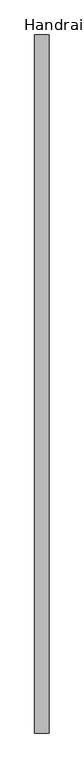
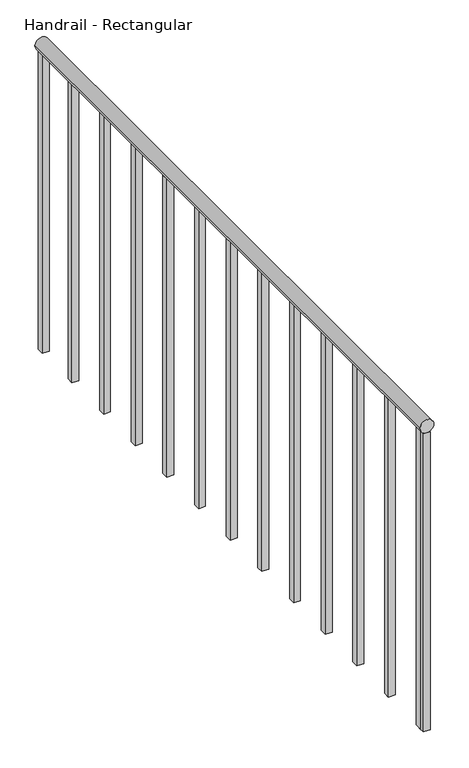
"""IFC4 building model written with IfcOpenShell, lengths in millimetres: railing geometry, Handrail - Rectangular."""

import ifcopenshell
import ifcopenshell.guid

model = None  # the IFC model being written
_history = None  # IfcOwnerHistory: only IFC2X3 demands one
_inside = {}  # id of a spatial element -> (the spatial element, [elements in it])
_under = {}  # id of a project, library or spatial element -> (it, [spatial elements below it])
_declared = {}  # id of a project -> (the project, [libraries it declares])
_typed = {}  # id of a type object -> (the type object, [elements of that type])
_made_of = {}  # id of a material, layer set ... -> (it, [elements and type objects made of it])


def new_model(schema):
    """Start an empty IFC model of exactly this schema.

    Asked for "IFC4X3", IfcOpenShell would pick the latest addendum, in which some entities
    have other attributes; the version numbers below select the first issue.
    IFC2X3 requires an IfcOwnerHistory on every rooted entity: one is made here for all.
    """
    global model, _history
    if schema == "IFC4X3":
        model = ifcopenshell.file(schema_version=(4, 3, 0, 0))
    else:
        model = ifcopenshell.file(schema=schema)
    _inside.clear()
    _under.clear()
    _declared.clear()
    _typed.clear()
    _made_of.clear()
    _history = None
    if model.schema == "IFC2X3":
        org = make("IfcOrganization", Name="unknown")
        user = make(
            "IfcPersonAndOrganization",
            ThePerson=make("IfcPerson", FamilyName="unknown"),
            TheOrganization=org,
        )
        app = make(
            "IfcApplication",
            ApplicationDeveloper=org,
            Version="unknown",
            ApplicationFullName="unknown",
            ApplicationIdentifier="unknown",
        )
        _history = make(
            "IfcOwnerHistory",
            OwningUser=user,
            OwningApplication=app,
            ChangeAction="ADDED",
            CreationDate=0,
        )
    return model


def make(cls, **values):
    """One entity of the class cls with the attributes given. An attribute that is None is left unset."""
    return model.create_entity(
        cls, **{name: value for name, value in values.items() if value is not None}
    )


def rooted(cls, **values):
    """An entity with a GlobalId (a new one), such as an element, a storey or a relation."""
    return make(cls, GlobalId=ifcopenshell.guid.new(), OwnerHistory=_history, **values)


def si_unit(unit_type, name, prefix=None):
    """IfcSIUnit, for example si_unit("LENGTHUNIT", "METRE", prefix="MILLI")."""
    return make("IfcSIUnit", UnitType=unit_type, Prefix=prefix, Name=name)


def assignment(units):
    """IfcUnitAssignment: the units of a project."""
    return None if units is None else make("IfcUnitAssignment", Units=units)


def point(xyz):
    """IfcCartesianPoint."""
    return None if xyz is None else make("IfcCartesianPoint", Coordinates=xyz)


def direction(xyz):
    """IfcDirection."""
    return None if xyz is None else make("IfcDirection", DirectionRatios=xyz)


def frame(location, z_axis=None, x_axis=None):
    """IfcAxis2Placement3D, a coordinate frame: its origin and axes. An axis left out is left unset."""
    return make(
        "IfcAxis2Placement3D",
        Location=point(location),
        Axis=direction(z_axis),
        RefDirection=direction(x_axis),
    )


def frame_2d(location, x_axis=None):
    """IfcAxis2Placement2D, a coordinate frame in the plane: its origin and x axis."""
    return make(
        "IfcAxis2Placement2D", Location=point(location), RefDirection=direction(x_axis)
    )


def origin():
    """The frame at (0, 0, 0) with its axes left unset."""
    return frame((0.0, 0.0, 0.0))


def place(relative_to, where):
    """IfcLocalPlacement: puts the frame where relative to a parent placement (None: the world)."""
    return make(
        "IfcLocalPlacement", PlacementRelTo=relative_to, RelativePlacement=where
    )


def context(
    kind, dimensions, precision=None, world=None, true_north=None, identifier=None
):
    """IfcGeometricRepresentationContext, for example the 3D "Model" context."""
    return make(
        "IfcGeometricRepresentationContext",
        ContextIdentifier=identifier,
        ContextType=kind,
        CoordinateSpaceDimension=dimensions,
        Precision=precision,
        WorldCoordinateSystem=world,
        TrueNorth=true_north,
    )


def project(units=None, contexts=None):
    """IfcProject with its units and contexts."""
    return rooted(
        "IfcProject",
        Name="project",
        RepresentationContexts=contexts,
        UnitsInContext=assignment(units),
    )


def spatial(cls, under=None, at=None, **own):
    """A site, building, storey or space (cls), placed at a placement, below another one or the project."""
    s = rooted(cls, ObjectPlacement=at, **own)
    if under is not None:
        _under.setdefault(under.id(), (under, []))[1].append(s)
    return s


def polyline(points):
    """IfcPolyline through the points."""
    return make("IfcPolyline", Points=[point(p) for p in points])


def circle_curve(where, radius):
    """IfcCircle in the frame where."""
    return make("IfcCircle", Position=where, Radius=radius)


def trimmed(basis, trim1, trim2, sense, master):
    """IfcTrimmedCurve: the piece of a basis curve between two trims."""
    return make(
        "IfcTrimmedCurve",
        BasisCurve=basis,
        Trim1=trim1,
        Trim2=trim2,
        SenseAgreement=sense,
        MasterRepresentation=master,
    )


def segment(curve, same_sense, transition):
    """IfcCompositeCurveSegment."""
    return make(
        "IfcCompositeCurveSegment",
        Transition=transition,
        SameSense=same_sense,
        ParentCurve=curve,
    )


def composite_curve(segments, self_intersect=None):
    """IfcCompositeCurve: segments joined end to end."""
    return make("IfcCompositeCurve", Segments=segments, SelfIntersect=self_intersect)


def outline(outer, holes=None, kind="AREA"):
    """IfcArbitraryClosedProfileDef: a profile drawn as a closed curve; with holes, ...WithVoids."""
    if holes is None:
        return make("IfcArbitraryClosedProfileDef", ProfileType=kind, OuterCurve=outer)
    return make(
        "IfcArbitraryProfileDefWithVoids",
        ProfileType=kind,
        OuterCurve=outer,
        InnerCurves=holes,
    )


def extrude(swept, where, along, depth):
    """IfcExtrudedAreaSolid: the profile swept, set in the frame where, extruded along a direction by depth."""
    return make(
        "IfcExtrudedAreaSolid",
        SweptArea=swept,
        Position=where,
        ExtrudedDirection=direction(along),
        Depth=depth,
    )


def shape(context_of_items, identifier, shape_type, items):
    """IfcShapeRepresentation: the items that make up one representation, for example the "Body"."""
    return make(
        "IfcShapeRepresentation",
        ContextOfItems=context_of_items,
        RepresentationIdentifier=identifier,
        RepresentationType=shape_type,
        Items=items,
    )


def source(mapping_origin, context_of_items, identifier, shape_type, items):
    """IfcRepresentationMap: a shape defined once, which mapped items show again and again."""
    return make(
        "IfcRepresentationMap",
        MappingOrigin=mapping_origin,
        MappedRepresentation=shape(context_of_items, identifier, shape_type, items),
    )


def transform(
    local_origin,
    x_axis=None,
    y_axis=None,
    z_axis=None,
    scale=None,
    scale2=None,
    scale3=None,
    uniform=True,
):
    """IfcCartesianTransformationOperator3D, or its non-uniform kind. x_axis, y_axis, z_axis: its Axis1, 2, 3."""
    if uniform:
        return make(
            "IfcCartesianTransformationOperator3D",
            Axis1=direction(x_axis),
            Axis2=direction(y_axis),
            LocalOrigin=point(local_origin),
            Scale=scale,
            Axis3=direction(z_axis),
        )
    return make(
        "IfcCartesianTransformationOperator3DnonUniform",
        Axis1=direction(x_axis),
        Axis2=direction(y_axis),
        LocalOrigin=point(local_origin),
        Scale=scale,
        Axis3=direction(z_axis),
        Scale2=scale2,
        Scale3=scale3,
    )


def mapped(mapping_source, mapping_target):
    """IfcMappedItem: shows the shape of a source again, moved by a transform."""
    return make(
        "IfcMappedItem", MappingSource=mapping_source, MappingTarget=mapping_target
    )


def made_of(thing, what):
    """Note that an element or type object is made of a material, layer set ...; save() writes the relation."""
    if what is not None:
        _made_of.setdefault(what.id(), (what, []))[1].append(thing)
    return thing


def element(
    cls,
    number,
    at=None,
    inside=None,
    cuts=None,
    type_object=None,
    material=None,
    context=None,
    identifier="Body",
    shape_type=None,
    held_by="IfcProductDefinitionShape",
    body=None,
    shapes=None,
    **own,
):
    """One element of the class cls, such as IfcWall. Its Tag is "e" and its number.

    at: its placement. inside: the storey or other place that contains it. cuts: it is an
    opening in that element (IfcRelVoidsElement). A single representation is given by context,
    identifier, shape_type and body (its items); several are given by shapes. held_by: the class
    of the entity that holds the representations. save() writes the other relations.
    """
    e = rooted(cls, Tag="e%d" % number, ObjectPlacement=at, **own)
    if body is not None:
        shapes = [shape(context, identifier, shape_type, body)]
    if shapes is not None:
        e.Representation = make(held_by, Representations=shapes)
    if inside is not None:
        _inside.setdefault(inside.id(), (inside, []))[1].append(e)
    if cuts is not None:
        rooted(
            "IfcRelVoidsElement", RelatingBuildingElement=cuts, RelatedOpeningElement=e
        )
    if type_object is not None:
        _typed.setdefault(type_object.id(), (type_object, []))[1].append(e)
    return made_of(e, material)


def aggregate(whole, parts):
    """IfcRelAggregates: a whole, such as a stair, and the parts it consists of."""
    return rooted("IfcRelAggregates", RelatingObject=whole, RelatedObjects=parts)


def save(model, path):
    """Write the relations noted so far, then the file.

    IfcRelAggregates (storeys below a building ...), IfcRelContainedInSpatialStructure (elements
    in a storey), IfcRelDefinesByType, IfcRelAssociatesMaterial and IfcRelDeclares: one each for
    every whole, place, type object, material and project.
    """
    for whole, parts in _under.values():
        aggregate(whole, parts)
    for where, things in _inside.values():
        rooted(
            "IfcRelContainedInSpatialStructure",
            RelatedElements=things,
            RelatingStructure=where,
        )
    for kind, things in _typed.values():
        rooted("IfcRelDefinesByType", RelatedObjects=things, RelatingType=kind)
    for what, things in _made_of.values():
        rooted("IfcRelAssociatesMaterial", RelatedObjects=things, RelatingMaterial=what)
    for by, libraries in _declared.values():
        rooted("IfcRelDeclares", RelatingContext=by, RelatedDefinitions=libraries)
    model.write(path)


def handrail_rectangular_9493bfe2(model_context):
    return source(origin(), model_context, "Body", "SweptSolid", [
        extrude(outline(composite_curve([segment(trimmed(circle_curve(frame_2d((10039.35, 2297.1410437)), 19.05), [point((10039.35, 2316.1910437))], [point((10039.35, 2278.0910437))], False, "CARTESIAN"), True, "CONTINUOUS"), segment(trimmed(circle_curve(frame_2d((10039.35, 2297.1410437)), 19.05), [point((10039.35, 2278.0910437))], [point((10039.35, 2316.1910437))], False, "CARTESIAN"), True, "CONTINUOUS")], self_intersect=False)), frame((0.0, 4578.8316867, 0.0), z_axis=(0.0, 1.0, 0.0), x_axis=(0.0, 0.0, 1.0)), (0.0, 0.0, 1.0), 1854.2),
        extrude(outline(polyline([(2287.6160437, 4613.7566867), (2306.6660437, 4613.7566867), (2306.6660437, 4594.7066867), (2287.6160437, 4594.7066867), (2287.6160437, 4613.7566867)])), frame((0.0, 0.0, 9144.0), z_axis=(0.0, 0.0, 1.0), x_axis=(1.0, 0.0, 0.0)), (0.0, 0.0, 1.0), 876.3),
        extrude(outline(polyline([(2287.6160437, 4766.1566867), (2306.6660437, 4766.1566867), (2306.6660437, 4747.1066867), (2287.6160437, 4747.1066867), (2287.6160437, 4766.1566867)])), frame((0.0, 0.0, 9144.0), z_axis=(0.0, 0.0, 1.0), x_axis=(1.0, 0.0, 0.0)), (0.0, 0.0, 1.0), 876.3),
        extrude(outline(polyline([(2287.6160437, 4918.5566867), (2306.6660437, 4918.5566867), (2306.6660437, 4899.5066867), (2287.6160437, 4899.5066867), (2287.6160437, 4918.5566867)])), frame((0.0, 0.0, 9144.0), z_axis=(0.0, 0.0, 1.0), x_axis=(1.0, 0.0, 0.0)), (0.0, 0.0, 1.0), 876.3),
        extrude(outline(polyline([(2287.6160437, 5070.9566867), (2306.6660437, 5070.9566867), (2306.6660437, 5051.9066867), (2287.6160437, 5051.9066867), (2287.6160437, 5070.9566867)])), frame((0.0, 0.0, 9144.0), z_axis=(0.0, 0.0, 1.0), x_axis=(1.0, 0.0, 0.0)), (0.0, 0.0, 1.0), 876.3),
        extrude(outline(polyline([(2287.6160437, 5223.3566867), (2306.6660437, 5223.3566867), (2306.6660437, 5204.3066867), (2287.6160437, 5204.3066867), (2287.6160437, 5223.3566867)])), frame((0.0, 0.0, 9144.0), z_axis=(0.0, 0.0, 1.0), x_axis=(1.0, 0.0, 0.0)), (0.0, 0.0, 1.0), 876.3),
        extrude(outline(polyline([(2287.6160437, 5375.7566867), (2306.6660437, 5375.7566867), (2306.6660437, 5356.7066867), (2287.6160437, 5356.7066867), (2287.6160437, 5375.7566867)])), frame((0.0, 0.0, 9144.0), z_axis=(0.0, 0.0, 1.0), x_axis=(1.0, 0.0, 0.0)), (0.0, 0.0, 1.0), 876.3),
        extrude(outline(polyline([(2287.6160437, 5528.1566867), (2306.6660437, 5528.1566867), (2306.6660437, 5509.1066867), (2287.6160437, 5509.1066867), (2287.6160437, 5528.1566867)])), frame((0.0, 0.0, 9144.0), z_axis=(0.0, 0.0, 1.0), x_axis=(1.0, 0.0, 0.0)), (0.0, 0.0, 1.0), 876.3),
        extrude(outline(polyline([(2287.6160437, 5680.5566867), (2306.6660437, 5680.5566867), (2306.6660437, 5661.5066867), (2287.6160437, 5661.5066867), (2287.6160437, 5680.5566867)])), frame((0.0, 0.0, 9144.0), z_axis=(0.0, 0.0, 1.0), x_axis=(1.0, 0.0, 0.0)), (0.0, 0.0, 1.0), 876.3),
        extrude(outline(polyline([(2287.6160437, 5832.9566867), (2306.6660437, 5832.9566867), (2306.6660437, 5813.9066867), (2287.6160437, 5813.9066867), (2287.6160437, 5832.9566867)])), frame((0.0, 0.0, 9144.0), z_axis=(0.0, 0.0, 1.0), x_axis=(1.0, 0.0, 0.0)), (0.0, 0.0, 1.0), 876.3),
        extrude(outline(polyline([(2287.6160437, 5985.3566867), (2306.6660437, 5985.3566867), (2306.6660437, 5966.3066867), (2287.6160437, 5966.3066867), (2287.6160437, 5985.3566867)])), frame((0.0, 0.0, 9144.0), z_axis=(0.0, 0.0, 1.0), x_axis=(1.0, 0.0, 0.0)), (0.0, 0.0, 1.0), 876.3),
        extrude(outline(polyline([(2287.6160437, 6137.7566867), (2306.6660437, 6137.7566867), (2306.6660437, 6118.7066867), (2287.6160437, 6118.7066867), (2287.6160437, 6137.7566867)])), frame((0.0, 0.0, 9144.0), z_axis=(0.0, 0.0, 1.0), x_axis=(1.0, 0.0, 0.0)), (0.0, 0.0, 1.0), 876.3),
        extrude(outline(polyline([(2287.6160437, 6290.1566867), (2306.6660437, 6290.1566867), (2306.6660437, 6271.1066867), (2287.6160437, 6271.1066867), (2287.6160437, 6290.1566867)])), frame((0.0, 0.0, 9144.0), z_axis=(0.0, 0.0, 1.0), x_axis=(1.0, 0.0, 0.0)), (0.0, 0.0, 1.0), 876.3),
        extrude(outline(polyline([(2287.6160437, 4597.8816867), (2306.6660437, 4597.8816867), (2306.6660437, 4578.8316867), (2287.6160437, 4578.8316867), (2287.6160437, 4597.8816867)])), frame((0.0, 0.0, 9144.0), z_axis=(0.0, 0.0, 1.0), x_axis=(1.0, 0.0, 0.0)), (0.0, 0.0, 1.0), 876.3),
        extrude(outline(polyline([(2287.6160437, 6433.0316867), (2306.6660437, 6433.0316867), (2306.6660437, 6413.9816867), (2287.6160437, 6413.9816867), (2287.6160437, 6433.0316867)])), frame((0.0, 0.0, 9144.0), z_axis=(0.0, 0.0, 1.0), x_axis=(1.0, 0.0, 0.0)), (0.0, 0.0, 1.0), 876.3),
    ])


if __name__ == "__main__":
    model = new_model("IFC4")
    model_context = context("Model", 3, world=origin())
    ifc_project = project(units=[si_unit("LENGTHUNIT", "METRE", prefix="MILLI")], contexts=[model_context])
    site = spatial("IfcSite", under=ifc_project)
    building = spatial("IfcBuilding", under=site)
    placement = place(None, origin())
    handrail_rectangular_shape = handrail_rectangular_9493bfe2(model_context)
    element("IfcRailing", 1, ObjectType="Handrail - Rectangular", at=placement, inside=building, context=model_context, shape_type="MappedRepresentation", body=[
        mapped(handrail_rectangular_shape, transform((0.0, 0.0, 0.0), x_axis=(1.0, 0.0, 0.0), y_axis=(0.0, 1.0, 0.0), z_axis=(0.0, 0.0, 1.0))),
    ])
    save(model, "model.ifc")
